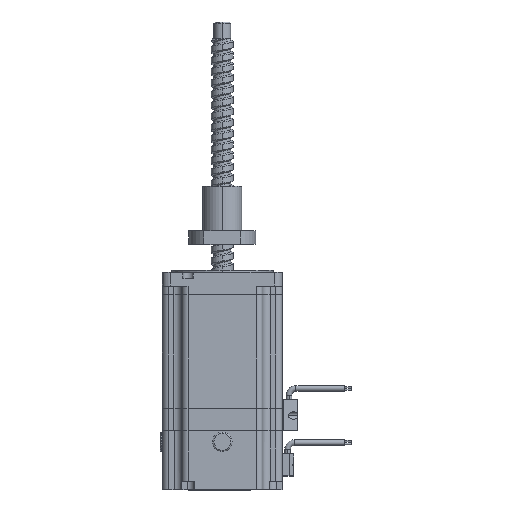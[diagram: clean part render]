
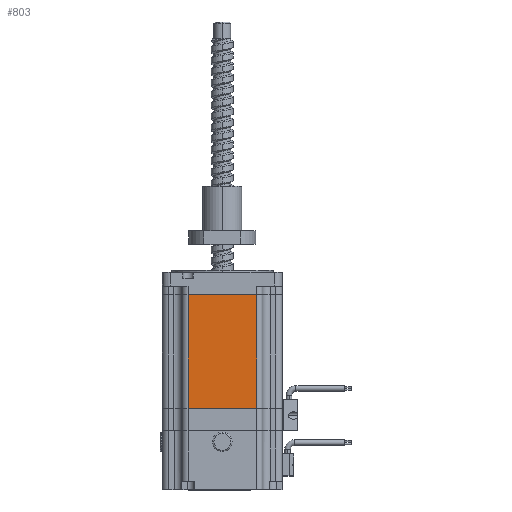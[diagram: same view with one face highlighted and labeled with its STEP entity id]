
A CAD part, top view. The second image highlights one B-rep face of the part: STEP entity #803.
In plain terms, the highlighted planar face has unit normal (0, 0, 1).
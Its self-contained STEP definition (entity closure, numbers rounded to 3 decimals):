
#102 = CARTESIAN_POINT ( 'NONE',  ( 37.3, -87.992, 43. ) ) ;
#489 = DIRECTION ( 'NONE',  ( 0., 1., 0. ) ) ;
#700 = EDGE_CURVE ( 'NONE', #14452, #16137, #10324, .T. ) ;
#803 = ADVANCED_FACE ( 'NONE', ( #13816 ), #17456, .F. ) ;
#1238 = VERTEX_POINT ( 'NONE', #9595 ) ;
#1904 = EDGE_CURVE ( 'NONE', #13582, #1238, #11211, .T. ) ;
#1913 = LINE ( 'NONE', #13469, #6122 ) ;
#2810 = VECTOR ( 'NONE', #489, 1000. ) ;
#3038 = LINE ( 'NONE', #102, #14488 ) ;
#3236 = VECTOR ( 'NONE', #18806, 1000. ) ;
#4100 = CARTESIAN_POINT ( 'NONE',  ( 24.65, -104., 43. ) ) ;
#4135 = CARTESIAN_POINT ( 'NONE',  ( 37.3, 10., 43. ) ) ;
#4367 = DIRECTION ( 'NONE',  ( 1., 0., 0. ) ) ;
#6122 = VECTOR ( 'NONE', #4367, 1000. ) ;
#6667 = CARTESIAN_POINT ( 'NONE',  ( -24.65, -87.992, 43. ) ) ;
#7163 = DIRECTION ( 'NONE',  ( 0., 0., -1. ) ) ;
#7188 = CARTESIAN_POINT ( 'NONE',  ( -24.65, -6.008, 43. ) ) ;
#8174 = ORIENTED_EDGE ( 'NONE', *, *, #1904, .T. ) ;
#9419 = CARTESIAN_POINT ( 'NONE',  ( -24.65, -104., 43. ) ) ;
#9554 = AXIS2_PLACEMENT_3D ( 'NONE', #4135, #7163, #17528 ) ;
#9595 = CARTESIAN_POINT ( 'NONE',  ( 24.65, -6.008, 43. ) ) ;
#10324 = LINE ( 'NONE', #9419, #2810 ) ;
#11211 = LINE ( 'NONE', #4100, #3236 ) ;
#12543 = DIRECTION ( 'NONE',  ( -1., 0., 0. ) ) ;
#13337 = ORIENTED_EDGE ( 'NONE', *, *, #18997, .F. ) ;
#13352 = EDGE_LOOP ( 'NONE', ( #13337, #8174, #16283, #15680 ) ) ;
#13469 = CARTESIAN_POINT ( 'NONE',  ( 37.3, -6.008, 43. ) ) ;
#13582 = VERTEX_POINT ( 'NONE', #13763 ) ;
#13763 = CARTESIAN_POINT ( 'NONE',  ( 24.65, -87.992, 43. ) ) ;
#13816 = FACE_OUTER_BOUND ( 'NONE', #13352, .T. ) ;
#14452 = VERTEX_POINT ( 'NONE', #6667 ) ;
#14488 = VECTOR ( 'NONE', #12543, 1000. ) ;
#15680 = ORIENTED_EDGE ( 'NONE', *, *, #700, .F. ) ;
#16137 = VERTEX_POINT ( 'NONE', #7188 ) ;
#16283 = ORIENTED_EDGE ( 'NONE', *, *, #16564, .F. ) ;
#16564 = EDGE_CURVE ( 'NONE', #16137, #1238, #1913, .T. ) ;
#17456 = PLANE ( 'NONE',  #9554 ) ;
#17528 = DIRECTION ( 'NONE',  ( -1., 0., 0. ) ) ;
#18806 = DIRECTION ( 'NONE',  ( 0., 1., 0. ) ) ;
#18997 = EDGE_CURVE ( 'NONE', #13582, #14452, #3038, .T. ) ;
